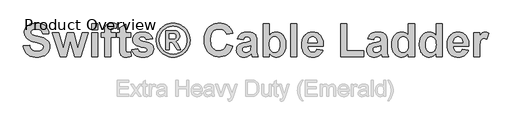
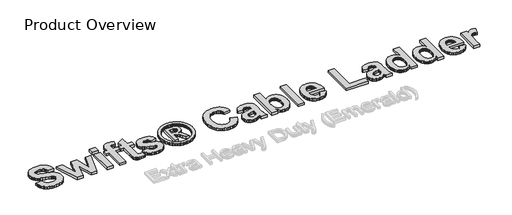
# One storey, part 11 of 11: 1 proxy.
"""IFC4 building model written with IfcOpenShell, lengths in millimetres."""

from ifc_helpers import new_model, si_unit, origin, origin_with_axes, place, context, project, spatial, polyline, outline, extrude, element, save

model = new_model("IFC4")

# Units and contexts
model_context = context("Model", 3, world=origin())
ifc_project = project(units=[si_unit("LENGTHUNIT", "METRE", prefix="MILLI")], contexts=[model_context])

# Site, building, storey
site = spatial("IfcSite", under=ifc_project)
building = spatial("IfcBuilding", under=site)
storey = spatial("IfcBuildingStorey", under=building, Name="Product Overview", Elevation=0.0)

# Proxy
placement = place(None, origin())
element("IfcBuildingElementProxy", 1, Name="2000mm Bold", ObjectType="2000mm Bold", at=placement, inside=storey, context=model_context, shape_type="SweptSolid", body=[
    extrude(outline(polyline([(-12506.384412, 258.8556104), (-12128.2025939, 290.370762), (-12105.3048666, 199.3338301), (-12090.3474802, 158.6626654), (-12073.0510787, 121.2230347), (-12053.415662, 87.0149381), (-12031.4412302, 56.0383756), (-12007.1277833, 28.2933472), (-11980.4753211, 3.7798529), (-11951.4453732, -17.6867665), (-11919.9994689, -36.2911699), (-11886.1376081, -52.0333574), (-11849.8597908, -64.913329), (-11811.1660172, -74.9310846), (-11770.056287, -82.0866244), (-11680.5889575, -87.8110562), (-11586.5667037, -82.7483195), (-11504.916609, -67.5601093), (-11468.7311213, -56.1689516), (-11435.6386734, -42.2464255), (-11405.6392653, -25.7925311), (-11378.7328969, -6.8072683), (-11334.353162, 35.4027222), (-11302.6533514, 81.0289059), (-11291.5584177, 105.1230702), (-11283.6334651, 130.0712828), (-11278.8784935, 155.8735437), (-11277.2935029, 182.5298529), (-11279.924895, 215.9685366), (-11287.8190711, 246.8527695), (-11300.9760314, 275.1825517), (-11319.3957757, 300.9578832), (-11344.4016942, 324.6404116), (-11377.3171772, 346.6917847), (-11418.1422245, 367.1120025), (-11466.8768363, 385.901065), (-11584.8124423, 418.7703832), (-11794.8313817, 470.1056104), (-11947.0520257, 511.1922582), (-12013.9755579, 533.5590906), (-12074.7745636, 557.1415953), (-12129.4490427, 581.9397724), (-12177.9989954, 607.9536218), (-12220.4244215, 635.1831436), (-12256.7253211, 663.6283377), (-12300.4664433, 705.6151985), (-12338.3754158, 749.8333567), (-12370.4522387, 796.2828121), (-12396.696912, 844.963565), (-12417.1094357, 895.8756152), (-12431.6898098, 949.0189627), (-12440.4380342, 1004.3936076), (-12443.354109, 1061.9995498), (-12437.9989954, 1136.3556104), (-12421.9336545, 1208.2495498), (-12395.1580863, 1277.681368), (-12357.6722908, 1344.651065), (-12310.0917984, 1406.4810839), (-12253.0321393, 1460.493868), (-12186.4933136, 1506.6894173), (-12110.4753211, 1545.0677317), (-12025.5629158, 1575.2287165), (-11932.3408514, 1596.7722771), (-11830.8091279, 1609.6984135), (-11720.9677454, 1614.0071256), (-11630.6579087, 1611.3218746), (-11546.1109745, 1603.2661218), (-11467.3269428, 1589.8398671), (-11394.3058136, 1571.0431104), (-11327.0475868, 1546.8758519), (-11265.5522624, 1517.3380915), (-11209.8198405, 1482.4298292), (-11159.8503211, 1442.151065), (-11115.5590688, 1397.3943178), (-11076.861448, 1349.0521067), (-11043.7574589, 1297.1244315), (-11016.2471014, 1241.6112923), (-10994.3303756, 1182.512689), (-10978.0072814, 1119.8286218), (-10967.2778188, 1053.5590906), (-10962.1419878, 983.7040953), (-11340.323806, 983.7040953), (-11357.4201601, 1053.9822676), (-11382.1183136, 1113.6425423), (-11414.4182662, 1162.6849192), (-11433.4189172, 1183.224396), (-11454.3200181, 1201.1093983), (-11503.4855011, 1230.0854873), (-11563.5766469, 1250.7826938), (-11634.5934556, 1263.2010176), (-11716.5359272, 1267.3404589), (-11801.9715333, 1262.9394173), (-11877.5586545, 1249.7362923), (-11943.2972908, 1227.7310839), (-11999.1874423, 1196.9237923), (-12028.0558136, 1172.3641332), (-12048.6760787, 1143.9881862), (-12061.0482378, 1111.7959514), (-12065.1722908, 1075.7874286), (-12061.417556, 1042.3333567), (-12050.1533514, 1011.4029589), (-12031.3796772, 982.9962354), (-12005.0965333, 957.1131862), (-11982.6104419, 941.4133164), (-11953.3150465, 925.5826464), (-11874.2963439, 893.5289059), (-11768.0404253, 860.9519646), (-11634.5472908, 827.8518226), (-11497.0224329, 794.0899854), (-11378.6713439, 759.5279589), (-11279.4940238, 724.165743), (-11199.4904726, 688.0033377), (-11132.8900939, 648.0708093), (-11073.9222908, 601.3982241), (-11022.5870636, 547.985582), (-10978.884412, 487.8328832), (-10943.9838439, 420.5861976), (-10919.0548666, 345.8915953), (-10904.0974802, 263.7490764), (-10899.1116848, 174.1586407), (-10905.0053874, 90.8158377), (-10922.6864954, 10.181368), (-10952.1550086, -67.7447683), (-10993.4109272, -142.9625714), (-11018.2091043, -178.7094937), (-11045.4540143, -212.0866244), (-11075.1456573, -243.0939634), (-11107.2840333, -271.7315108), (-11141.8691422, -297.9992665), (-11178.900984, -321.8972305), (-11218.3795588, -343.4254028), (-11260.3048666, -362.5837835), (-11351.9111639, -394.037382), (-11454.135359, -416.504238), (-11566.9774518, -429.9843517), (-11690.4374423, -434.4777229), (-11781.5205389, -431.7116836), (-11867.1561923, -423.4135657), (-11947.3444026, -409.5833692), (-12022.0851696, -390.2210941), (-12091.3784935, -365.3267404), (-12155.2243742, -334.9003081), (-12213.6228117, -298.9417972), (-12266.573806, -257.4512077), (-12314.2697103, -210.6593635), (-12356.9028779, -158.7970884), (-12394.4733088, -101.8643825), (-12426.9810029, -39.8612456), (-12454.4259603, 27.2123221), (-12476.808181, 99.3563207), (-12494.1276649, 176.5707501), (-12506.384412, 258.8556104)])), origin_with_axes(), (0.0, 0.0, 1.0), 150.0),
    extrude(outline(polyline([(-10281.6116848, -402.9625714), (-10741.5359272, 1046.7343983), (-10367.7859272, 1046.7343983), (-10095.4753211, 96.8480347), (-9840.8919878, 1046.7343983), (-9461.7253211, 1046.7343983), (-9213.0510787, 96.8480347), (-8939.7556242, 1046.7343983), (-8566.9904726, 1046.7343983), (-9025.9298666, -402.9625714), (-9397.2177454, -402.9625714), (-9654.2631999, 529.1965195), (-9904.9071393, -402.9625714), (-10281.6116848, -402.9625714)])), origin_with_axes(), (0.0, 0.0, 1.0), 150.0),
    extrude(outline(polyline([(-8377.8995636, 1235.8253074), (-8377.8995636, 1582.4919741), (-7999.7177454, 1582.4919741), (-7999.7177454, 1235.8253074), (-8377.8995636, 1235.8253074)])), origin_with_axes(), (0.0, 0.0, 1.0), 150.0),
    extrude(outline(polyline([(-8377.8995636, -402.9625714), (-8377.8995636, 1046.7343983), (-7999.7177454, 1046.7343983), (-7999.7177454, -402.9625714), (-8377.8995636, -402.9625714)])), origin_with_axes(), (0.0, 0.0, 1.0), 150.0),
    extrude(outline(polyline([(-7779.1116848, 1046.7343983), (-7590.0207757, 1046.7343983), (-7590.0207757, 1152.6056104), (-7587.6202075, 1235.6098718), (-7580.4185029, 1307.3499286), (-7568.415662, 1367.8257809), (-7551.6116848, 1417.0374286), (-7528.3754158, 1458.6011123), (-7497.0756999, 1496.1330726), (-7457.712537, 1529.6333093), (-7410.2859272, 1559.1018226), (-7355.4114007, 1583.1228926), (-7293.7044878, 1600.2807998), (-7225.1651886, 1610.5755442), (-7149.7935029, 1614.0071256), (-7069.4667984, 1611.0525801), (-6990.0018363, 1602.1889438), (-6911.3986166, 1587.4162165), (-6833.6571393, 1566.7343983), (-6880.9298666, 1309.1965195), (-6970.4279726, 1325.0772014), (-7056.7253211, 1330.370762), (-7095.1805768, 1328.0009703), (-7127.8190711, 1320.8915953), (-7154.6408041, 1309.042637), (-7175.6457757, 1292.4540953), (-7191.4802927, 1269.1254968), (-7202.790662, 1237.056368), (-7209.5768836, 1196.2467089), (-7211.8389575, 1146.6965195), (-7211.8389575, 1046.7343983), (-6928.2025939, 1046.7343983), (-6928.2025939, 763.0980347), (-7211.8389575, 763.0980347), (-7211.8389575, -402.9625714), (-7590.0207757, -402.9625714), (-7590.0207757, 763.0980347), (-7779.1116848, 763.0980347), (-7779.1116848, 1046.7343983)])), origin_with_axes(), (0.0, 0.0, 1.0), 150.0),
    extrude(outline(polyline([(-6014.2631999, 1046.7343983), (-6014.2631999, 763.0980347), (-6297.8995636, 763.0980347), (-6297.8995636, 141.1662165), (-6295.7452075, -8.099882), (-6289.2821393, -78.7012077), (-6275.1864954, -107.2618138), (-6250.134412, -130.4057532), (-6216.2802454, -145.7324577), (-6175.7783514, -150.8413593), (-6141.8010787, -148.5638971), (-6100.9298666, -141.7315108), (-5998.5056242, -114.4019653), (-5982.7480484, -383.2656017), (-6053.4417037, -405.6709047), (-6128.6287302, -421.6746926), (-6208.3091279, -431.2769653), (-6292.4828969, -434.4777229), (-6344.1258893, -432.2618138), (-6393.1836545, -425.6140865), (-6439.6561923, -414.5345411), (-6483.5435029, -399.0231774), (-6523.2913723, -380.0032911), (-6557.3455863, -358.3981774), (-6585.706145, -334.2078365), (-6608.3730484, -307.4322683), (-6626.7004632, -276.8711888), (-6642.042556, -241.3243138), (-6654.3993268, -200.7916433), (-6663.7707757, -155.2731774), (-6673.0037302, -52.4796168), (-6676.0813817, 119.9919741), (-6676.0813817, 763.0980347), (-6865.1722908, 763.0980347), (-6865.1722908, 1046.7343983), (-6676.0813817, 1046.7343983), (-6676.0813817, 1330.370762), (-6297.8995636, 1550.9768226), (-6297.8995636, 1046.7343983), (-6014.2631999, 1046.7343983)])), origin_with_axes(), (0.0, 0.0, 1.0), 150.0),
    extrude(outline(polyline([(-5951.2328969, 6.7343983), (-5573.0510787, 69.7647014), (-5558.1398571, 18.8603453), (-5537.042556, -25.5193896), (-5509.7591753, -63.3745032), (-5476.2897151, -94.7049956), (-5436.1109745, -119.2646547), (-5388.6997529, -136.8072683), (-5334.0560503, -147.3328365), (-5272.1798666, -150.8413593), (-5204.5023098, -147.4867191), (-5145.7499423, -137.4227986), (-5095.9227643, -120.6495979), (-5055.0207757, -97.1671168), (-5033.4772151, -76.8546168), (-5018.0889575, -53.3413593), (-5008.8560029, -26.6273441), (-5005.7783514, 3.2874286), (-5007.4095067, 23.7845877), (-5012.3029726, 42.4351559), (-5020.4587492, 59.2391332), (-5031.8768363, 74.1965195), (-5049.9426507, 87.4611976), (-5076.5643363, 100.1718983), (-5155.4753211, 123.931368), (-5358.5695446, 173.3584514), (-5520.7310029, 220.6927317), (-5641.9596961, 265.9342089), (-5687.2242558, 287.7701464), (-5722.2556242, 309.0828832), (-5761.1494452, 339.8055394), (-5794.8574234, 373.3750233), (-5823.3795588, 409.7913349), (-5846.7158514, 449.0544741), (-5864.8663012, 491.1644409), (-5877.8309083, 536.1212354), (-5885.6096725, 583.9248576), (-5888.2025939, 634.5753074), (-5885.9789906, 680.5477269), (-5879.308181, 724.6581673), (-5868.1901649, 766.9066284), (-5852.6249423, 807.2931104), (-5832.6125134, 845.8176133), (-5808.1528779, 882.480137), (-5779.2460361, 917.2806815), (-5745.8919878, 950.2192468), (-5707.8599092, 980.2263491), (-5664.9189764, 1006.2325044), (-5617.0691895, 1028.2377127), (-5564.3105484, 1046.2419741), (-5506.6430531, 1060.2452885), (-5444.0667037, 1070.2476559), (-5376.5815001, 1076.2490764), (-5304.1874423, 1078.2495498), (-5235.3172956, 1076.6337828), (-5171.0174613, 1071.7864817), (-5111.2879395, 1063.7076464), (-5056.1287302, 1052.3972771), (-5005.5398334, 1037.8553737), (-4959.5212492, 1020.0819362), (-4918.0729774, 999.0769646), (-4881.1950181, 974.8404589), (-4847.9486876, 947.4339722), (-4817.3953022, 916.9190574), (-4789.5348618, 883.2957146), (-4764.3673666, 846.5639438), (-4741.8928164, 806.7237449), (-4722.1112113, 763.775118), (-4705.0225512, 717.7180631), (-4690.6268363, 668.5525801), (-5068.8086545, 605.5222771), (-5080.5652833, 648.6401748), (-5096.6306242, 686.4029589), (-5117.0046772, 718.8106294), (-5141.6874423, 745.8631862), (-5171.3560029, 767.1913112), (-5206.6874423, 782.4256862), (-5247.6817605, 791.5663112), (-5294.3389575, 794.6131862), (-5352.6604537, 792.0279589), (-5402.0567605, 784.2722771), (-5442.5278779, 771.3461407), (-5474.073806, 753.2495498), (-5489.8006052, 737.368868), (-5501.0340333, 719.2722771), (-5507.7740901, 698.9597771), (-5510.0207757, 676.431368), (-5507.7740901, 657.196046), (-5501.0340333, 639.3764438), (-5489.8006052, 622.9725612), (-5474.073806, 607.9843983), (-5435.064573, 587.3333567), (-5366.2944499, 562.8044741), (-5267.7634367, 534.3977506), (-5139.4715333, 502.1131862), (-5007.1171298, 465.8892279), (-4896.3986166, 425.6643226), (-4849.1528188, 404.0515148), (-4807.3159935, 381.4384703), (-4770.8881407, 357.825189), (-4739.8692605, 333.211671), (-4713.5553401, 306.4745735), (-4690.7499423, 277.22919), (-4671.4530673, 245.4755205), (-4655.6647151, 211.213565), (-4643.3848855, 174.4433235), (-4634.6135787, 135.164796), (-4629.3507946, 93.3779826), (-4627.5965333, 49.0828832), (-4630.1394428, 0.3444244), (-4637.7681715, -46.6474672), (-4650.4827193, -91.8927915), (-4668.2830863, -135.3915486), (-4691.1692724, -177.1437385), (-4719.1412776, -217.1493611), (-4752.1991019, -255.4084165), (-4790.3427454, -291.9209047), (-4833.4721843, -325.332659), (-4881.487395, -354.2895127), (-4934.3883775, -378.7914658), (-4992.1751317, -398.8385183), (-5054.8476578, -414.4306703), (-5122.4059556, -425.5679218), (-5194.8500252, -432.2502726), (-5272.1798666, -434.4777229), (-5342.6773216, -432.6234379), (-5409.3969594, -427.0605827), (-5472.3387799, -417.7891576), (-5531.5027833, -404.8091623), (-5586.8889693, -388.1205969), (-5638.4973382, -367.7234615), (-5686.3278898, -343.617756), (-5730.3806242, -315.8034805), (-5770.7247885, -284.8038356), (-5807.4296298, -251.1420221), (-5840.4951483, -214.8180401), (-5869.9213439, -175.8318896), (-5895.7082165, -134.1835704), (-5917.8557662, -89.8730827), (-5936.363993, -42.9004265), (-5951.2328969, 6.7343983)])), origin_with_axes(), (0.0, 0.0, 1.0), 150.0),
    extrude(outline(polyline([(-3902.7480484, 6.7343983), (-3902.7480484, 1172.7950044), (-3689.5283514, 1172.7950044), (-3354.1874423, 1169.8404589), (-3304.1909935, 1163.2388964), (-3260.072859, 1153.2826938), (-3221.8330389, 1139.971851), (-3189.4715333, 1123.306368), (-3161.2648571, 1102.5476085), (-3135.4895257, 1076.9569362), (-3112.1455389, 1046.534351), (-3091.2328969, 1011.2798529), (-3073.9980484, 972.5937733), (-3061.6874423, 931.8764438), (-3054.3010787, 889.1278642), (-3051.8389575, 844.3480347), (-3056.40927, 783.5951938), (-3070.1202075, 727.3972771), (-3092.97177, 675.7542847), (-3124.9639575, 628.6662165), (-3165.2350276, 588.1027695), (-3212.9232378, 556.0336407), (-3268.0285882, 532.4588301), (-3330.5510787, 517.3783377), (-3286.9099802, 496.3272014), (-3254.4715333, 473.5525801), (-3222.6486166, 439.3290953), (-3180.854109, 383.931368), (-3100.5889575, 242.1131862), (-2988.8086545, 6.7343983), (-3209.4147151, 6.7343983), (-3318.2404726, 193.3631862), (-3370.0219594, 278.9218983), (-3415.0633893, 346.9995498), (-3453.3647624, 397.5961407), (-3484.9260787, 430.711671), (-3515.0101223, 452.039796), (-3548.8796772, 467.274171), (-3586.5347435, 476.414796), (-3627.9753211, 479.461671), (-3682.1419878, 479.461671), (-3682.1419878, 6.7343983), (-3902.7480484, 6.7343983)]), holes=[polyline([(-3682.1419878, 668.5525801), (-3595.9677454, 668.5525801), (-3447.1325181, 672.430421), (-3398.8441658, 677.2777222), (-3367.9753211, 684.0639438), (-3346.9857378, 693.2968983), (-3328.3351696, 705.4843983), (-3312.0236166, 720.6264438), (-3298.0510787, 738.7230347), (-3286.8484272, 758.9585934), (-3278.8465333, 780.5175423), (-3274.0453969, 803.3998813), (-3272.4450181, 827.6056104), (-3274.0146204, 851.0727032), (-3278.7234272, 873.2164059), (-3286.5714386, 894.0367184), (-3297.5586545, 913.5336407), (-3311.4388628, 931.0300896), (-3327.9658514, 945.8489817), (-3347.1396204, 957.9903169), (-3368.9601696, 967.4540953), (-3400.5060976, 974.5634703), (-3448.8560029, 979.6415953), (-3595.9677454, 983.7040953), (-3682.1419878, 983.7040953), (-3682.1419878, 668.5525801)])]), origin_with_axes(), (0.0, 0.0, 1.0), 150.0),
    extrude(outline(polyline([(-3445.7783514, 1614.0071256), (-3380.2513036, 1611.9489461), (-3315.393645, 1605.7744078), (-3251.2053756, 1595.4835105), (-3187.6864954, 1581.0762544), (-3124.8370044, 1562.5526393), (-3062.6569026, 1539.9126654), (-3001.14619, 1513.1563325), (-2940.3048666, 1482.2836407), (-2881.4178519, 1447.5677317), (-2825.7700654, 1409.2817468), (-2773.3615072, 1367.4256862), (-2724.1921772, 1321.9995498), (-2678.2620754, 1273.0033377), (-2635.5712018, 1220.4370498), (-2596.1195565, 1164.3006862), (-2559.9071393, 1104.5942468), (-2527.4763865, 1042.7449925), (-2499.369734, 980.1801843), (-2475.5871819, 916.8998221), (-2456.1287302, 852.9039059), (-2440.9943789, 788.1924357), (-2430.1841279, 722.7654116), (-2423.6979774, 656.6228335), (-2421.5359272, 589.7647014), (-2423.6556597, 523.3028169), (-2430.0148571, 457.6103453), (-2440.6135195, 392.6872866), (-2455.4516469, 328.5336407), (-2474.5292392, 265.1494078), (-2497.8462965, 202.5345877), (-2525.4028188, 140.6891805), (-2557.198806, 79.6131862), (-2592.7879987, 20.5953713), (-2631.7241374, -35.0754975), (-2674.0072222, -87.3994203), (-2719.6372529, -136.3763971), (-2768.6142297, -182.0064279), (-2820.9381526, -224.2895127), (-2876.6090214, -263.2256514), (-2935.6268363, -298.8148441), (-2996.7028306, -330.6108313), (-3058.5482378, -358.1673536), (-3121.1630579, -381.4844109), (-3184.5472908, -400.5620032), (-3248.7009367, -415.4001306), (-3313.6239954, -425.998793), (-3379.316467, -432.3579904), (-3445.7783514, -434.4777229), (-3512.2402359, -432.3579904), (-3577.9327075, -425.998793), (-3642.8557662, -415.4001306), (-3707.009412, -400.5620032), (-3770.393645, -381.4844109), (-3833.0084651, -358.1673536), (-3894.8538723, -330.6108313), (-3955.9298666, -298.8148441), (-4014.9476815, -263.2256514), (-4070.6185503, -224.2895127), (-4122.9424731, -182.0064279), (-4171.9194499, -136.3763971), (-4217.5494807, -87.3994203), (-4259.8325654, -35.0754975), (-4298.7687042, 20.5953713), (-4334.3578969, 79.6131862), (-4366.1538841, 140.6891805), (-4393.7104064, 202.5345877), (-4417.0274636, 265.1494078), (-4436.105056, 328.5336407), (-4450.9431833, 392.6872866), (-4461.5418458, 457.6103453), (-4467.9010432, 523.3028169), (-4470.0207757, 589.7647014), (-4467.8587255, 656.6228335), (-4461.3725749, 722.7654116), (-4450.562324, 788.1924357), (-4435.4279726, 852.9039059), (-4415.9695209, 916.8998221), (-4392.1869689, 980.1801843), (-4364.0803164, 1042.7449925), (-4331.6495636, 1104.5942468), (-4295.4371464, 1164.3006862), (-4255.9855011, 1220.4370498), (-4213.2946275, 1273.0033377), (-4167.3645257, 1321.9995498), (-4118.1951957, 1367.4256862), (-4065.7866374, 1409.2817468), (-4010.138851, 1447.5677317), (-3951.2518363, 1482.2836407), (-3890.4105129, 1513.1563325), (-3828.8998003, 1539.9126654), (-3766.7196985, 1562.5526393), (-3703.8702075, 1581.0762544), (-3640.3513273, 1595.4835105), (-3576.1630579, 1605.7744078), (-3511.3053993, 1611.9489461), (-3445.7783514, 1614.0071256)]), holes=[polyline([(-3446.2707757, 1424.9162165), (-3499.6641824, 1423.2427435), (-3552.4959177, 1418.2223245), (-3604.7659816, 1409.8549594), (-3656.4743742, 1398.1406483), (-3707.6210953, 1383.0793912), (-3758.206145, 1364.6711881), (-3808.2295233, 1342.9160389), (-3857.6912302, 1317.8139438), (-3905.5679466, 1289.5803382), (-3950.8363533, 1258.4306578), (-3993.4964504, 1224.3649026), (-4033.5482378, 1187.3830726), (-4070.9917155, 1147.4851677), (-4105.8268836, 1104.6711881), (-4138.0537421, 1058.9411336), (-4167.6722908, 1010.2950044), (-4194.2170351, 959.8907667), (-4217.2224802, 908.886387), (-4236.6886261, 857.2818652), (-4252.6154726, 805.0772014), (-4265.00302, 752.2723955), (-4273.8512681, 698.8674476), (-4279.160217, 644.8623576), (-4280.9298666, 590.2571256), (-4279.2025347, 536.0404471), (-4274.0205389, 482.4623813), (-4265.3838794, 429.5229282), (-4253.292556, 377.2220877), (-4237.7465688, 325.55986), (-4218.7459177, 274.5362449), (-4196.2906029, 224.1512425), (-4170.3806242, 174.4048529), (-4141.3737586, 126.3319362), (-4109.6277833, 80.9673529), (-4075.142698, 38.3111029), (-4037.9185029, -1.6368138), (-3997.955198, -38.8763971), (-3955.2527833, -73.4076471), (-3909.8112586, -105.2305638), (-3861.6306242, -134.3451471), (-3811.7842108, -160.3705378), (-3761.3453495, -182.9258763), (-3710.3140404, -202.0111628), (-3658.6902833, -217.6263971), (-3606.4740782, -229.7715794), (-3553.6654253, -238.4467096), (-3500.2643244, -243.6517878), (-3446.2707757, -245.3868138), (-3392.0579442, -243.6517878), (-3338.4914196, -238.4467096), (-3285.5712018, -229.7715794), (-3233.2972908, -217.6263971), (-3181.6696867, -202.0111628), (-3130.6883893, -182.9258763), (-3080.3533988, -160.3705378), (-3030.6647151, -134.3451471), (-2982.6456573, -105.2305638), (-2937.3195446, -73.4076471), (-2894.686377, -38.8763971), (-2854.7461545, -1.6368138), (-2817.498877, 38.3111029), (-2782.9445446, 80.9673529), (-2751.0831573, 126.3319362), (-2721.9147151, 174.4048529), (-2695.8316185, 224.1512425), (-2673.2262681, 274.5362449), (-2654.0986639, 325.55986), (-2638.448806, 377.2220877), (-2626.2766942, 429.5229282), (-2617.5823287, 482.4623813), (-2612.3657094, 536.0404471), (-2610.6268363, 590.2571256), (-2612.3964859, 644.8623576), (-2617.7054348, 698.8674476), (-2626.5536829, 752.2723955), (-2638.9412302, 805.0772014), (-2654.8680768, 857.2818652), (-2674.3342226, 908.886387), (-2697.3396677, 959.8907667), (-2723.884412, 1010.2950044), (-2753.514502, 1058.9411336), (-2785.775984, 1104.6711881), (-2820.6688581, 1147.4851677), (-2858.1931242, 1187.3830726), (-2898.3487823, 1224.3649026), (-2941.1358325, 1258.4306578), (-2986.5542747, 1289.5803382), (-3034.604109, 1317.8139438), (-3084.2312397, 1342.9160389), (-3134.3815711, 1364.6711881), (-3185.0551033, 1383.0793912), (-3236.2518363, 1398.1406483), (-3287.97177, 1409.8549594), (-3340.2149045, 1418.2223245), (-3392.9812397, 1423.2427435), (-3446.2707757, 1424.9162165)])]), origin_with_axes(), (0.0, 0.0, 1.0), 150.0),
    extrude(outline(polyline([(-215.4753211, 353.401065), (162.7064971, 227.3404589), (138.446909, 150.0106175), (110.4787508, 77.8127601), (78.8020226, 10.7468865), (43.4167243, -51.1870032), (4.322856, -107.988909), (-38.4795825, -159.6588308), (-84.990591, -206.1967688), (-135.2101696, -247.6027229), (-189.0382946, -284.0151874), (-246.3749423, -315.5726566), (-307.2201128, -342.2751306), (-371.573806, -364.1226093), (-439.4360219, -381.1150927), (-510.8067605, -393.2525808), (-585.6860219, -400.5350737), (-664.073806, -402.9625714), (-760.9659698, -398.815436), (-853.4417037, -386.3740297), (-941.5010077, -365.6383526), (-1025.1438817, -336.6084047), (-1104.3703259, -299.284186), (-1179.1803401, -253.6656964), (-1249.5739243, -199.752936), (-1315.5510787, -137.5459047), (-1375.3344594, -68.144863), (-1427.1467226, 7.3499286), (-1470.9878685, 88.9384703), (-1506.8578969, 176.620762), (-1534.7568079, 270.3968036), (-1554.6846014, 370.2665953), (-1566.6412776, 476.230137), (-1570.6268363, 588.2874286), (-1566.606654, 706.6385176), (-1554.5461071, 818.1879968), (-1534.4451957, 922.9358661), (-1506.3039196, 1020.8821256), (-1470.122279, 1112.0267752), (-1425.9002738, 1196.369815), (-1373.637904, 1273.9112449), (-1313.3351696, 1344.651065), (-1246.4770375, 1407.7813917), (-1174.5484745, 1462.4943415), (-1097.5494807, 1508.7899144), (-1015.480056, 1546.6681104), (-928.3402004, 1576.1289296), (-836.1299139, 1597.1723718), (-738.8491966, 1609.7984371), (-636.4980484, 1614.0071256), (-547.0614954, 1610.5370735), (-461.9336545, 1600.1269173), (-381.1145257, 1582.7766568), (-304.604109, 1558.4862923), (-232.4024045, 1527.2558235), (-164.509412, 1489.0852506), (-100.9251317, 1443.9745735), (-41.6495636, 1391.9237923), (-8.6186687, 1357.3848481), (22.2732584, 1319.26044), (51.0262177, 1277.5505678), (77.6402092, 1232.2552317), (102.1152328, 1183.3744315), (124.4512887, 1130.9081673), (162.7064971, 1015.2192468), (-215.4753211, 952.1889438), (-239.3117321, 1021.4514911), (-255.0731549, 1053.1859253), (-273.3967226, 1082.9891332), (-294.2824352, 1110.8611147), (-317.7302927, 1136.8018699), (-372.3124423, 1182.8897014), (-435.2350276, 1219.8369078), (-504.5899045, 1246.2277695), (-580.377073, 1262.0622866), (-662.5965333, 1267.3404589), (-720.175546, 1264.9437378), (-774.9769783, 1257.7535745), (-827.0008301, 1245.7699689), (-876.2471014, 1228.992921), (-922.7157922, 1207.422431), (-966.4069026, 1181.0584987), (-1007.3204324, 1149.9011242), (-1045.4563817, 1113.9503074), (-1079.9068434, 1072.6366829), (-1109.7639101, 1025.3908851), (-1135.027582, 972.2129139), (-1155.697859, 913.1027695), (-1171.7747411, 848.0604518), (-1183.2582283, 777.0859608), (-1190.1483207, 700.1792965), (-1192.4450181, 617.3404589), (-1190.2175678, 529.5196729), (-1183.535217, 448.2542847), (-1172.3979655, 373.5442942), (-1156.8058136, 305.3897014), (-1136.758761, 243.7905063), (-1112.2568079, 188.7467089), (-1083.2999542, 140.2583093), (-1049.8881999, 98.3253074), (-1012.9063699, 62.0859608), (-973.2392889, 30.6785271), (-930.886957, 4.1030063), (-885.8493742, -17.6406017), (-838.1265404, -34.5522968), (-787.7184556, -46.632079), (-734.6251199, -53.8799483), (-678.8465333, -56.2959047), (-637.5944618, -54.7532319), (-597.7965806, -50.1252134), (-559.4528898, -42.4118493), (-522.5633893, -31.6131396), (-487.1280792, -17.7290842), (-453.1469594, -0.7596831), (-420.6200299, 19.2950636), (-389.5472908, 42.4351559), (-360.2749779, 68.8914177), (-333.1493268, 98.8946729), (-308.1703377, 132.4449215), (-285.3380105, 169.5421635), (-264.6523453, 210.1863988), (-246.113342, 254.3776275), (-215.4753211, 353.401065)])), origin_with_axes(), (0.0, 0.0, 1.0), 150.0),
    extrude(outline(polyline([(793.0095274, 605.5222771), (446.3428607, 668.5525801), (461.3810354, 719.0568415), (478.919802, 766.1756862), (498.9591604, 809.9091142), (521.4991107, 850.2571256), (546.5396528, 887.2197203), (574.0807868, 920.7968983), (604.1225127, 950.9886597), (636.6648304, 977.7950044), (672.5002352, 1001.3390385), (712.4212224, 1021.743868), (756.427792, 1039.009493), (804.519944, 1053.1359135), (856.6976784, 1064.1231294), (912.9609952, 1071.9711407), (973.3098943, 1076.6799476), (1037.7443758, 1078.2495498), (1150.9096221, 1074.4486502), (1248.6250577, 1063.0459514), (1330.8906827, 1044.0414532), (1366.2298162, 1031.6885295), (1397.7064971, 1017.4351559), (1452.427141, 984.9967089), (1498.4072546, 948.495762), (1535.646838, 907.932315), (1564.145891, 863.306368), (1585.2585804, 806.8776275), (1600.3390728, 730.9057998), (1609.3873683, 635.3908851), (1612.4034667, 520.3328832), (1612.4034667, 73.211671), (1617.3892622, -92.7352986), (1623.6215065, -156.8735562), (1632.3466486, -208.4549956), (1644.4879838, -254.5889918), (1660.9688077, -302.3849199), (1681.7891202, -351.8427797), (1706.9489213, -402.9625714), (1328.7671031, -402.9625714), (1293.3125577, -282.8110562), (1280.0171031, -235.0459047), (1231.9134099, -281.6877134), (1182.1477849, -322.1434426), (1130.7202281, -356.4130922), (1077.6307395, -384.4966623), (1022.817766, -406.3633763), (966.2197546, -421.9824577), (907.8367054, -431.3539066), (847.6686183, -434.4777229), (795.1754246, -432.5811201), (745.5367527, -426.8913119), (698.7526026, -417.4082982), (654.8229743, -404.132079), (613.7478678, -387.0626542), (575.527283, -366.200024), (540.1612201, -341.5441883), (507.6496789, -313.0951471), (478.5081661, -281.7531135), (453.2521883, -248.4183005), (431.8817456, -213.0907082), (414.396838, -175.7703365), (400.7974653, -136.4571855), (391.0836277, -95.1512551), (385.2553252, -51.8525453), (383.3125577, -6.5610562), (386.7749156, 53.0838301), (397.1619895, 109.4048529), (414.4737792, 162.402012), (438.7102849, 212.0753074), (469.1944232, 257.2860082), (505.2491107, 296.8953832), (546.8743474, 330.9034324), (594.0701334, 359.3101559), (649.5601902, 384.0852506), (716.0682395, 407.1984135), (793.5942811, 428.6496445), (882.1383152, 448.4389438), (999.4276145, 473.1524854), (1097.2046031, 497.0658377), (1175.4692811, 520.1790006), (1234.2216486, 542.4919741), (1234.2216486, 582.3783377), (1231.2824914, 635.6217089), (1222.4650198, 680.6169741), (1207.7692338, 717.3641332), (1187.1951334, 745.8631862), (1158.496033, 767.1913112), (1119.4252471, 782.4256862), (1069.9827755, 791.5663112), (1010.1686183, 794.6131862), (968.5279933, 791.9971824), (931.7500577, 784.149171), (899.8348114, 771.0691521), (872.7822546, 752.7571256), (849.3305501, 727.8589248), (828.2178607, 695.0203832), (809.4441864, 654.2415006), (793.0095274, 605.5222771)]), holes=[polyline([(1234.2216486, 258.8556104), (1147.1856637, 234.6652695), (1021.0019516, 206.4124286), (900.3580122, 176.3129968), (858.8712698, 161.4017752), (829.9413455, 146.5828832), (799.9957963, 121.3153642), (778.6061183, 92.7855347), (765.7723114, 60.9933945), (761.4943758, 25.9389438), (764.9259573, -8.7923536), (775.2207016, -41.0923062), (792.3786088, -70.9609142), (816.3996789, -98.3981774), (845.7143096, -121.3420695), (878.7528986, -137.7305638), (915.5154459, -147.5636604), (956.0019516, -150.8413593), (1002.9361372, -147.0250714), (1048.7008152, -135.5762077), (1093.2959857, -116.4947683), (1136.7216486, -89.7807532), (1165.959338, -65.3442002), (1189.6572546, -38.3224199), (1207.8153986, -8.7154123), (1220.4337698, 23.4768226), (1226.4659667, 50.3447203), (1230.7746789, 87.1226559), (1234.2216486, 190.4086407), (1234.2216486, 258.8556104)])]), origin_with_axes(), (0.0, 0.0, 1.0), 150.0),
    extrude(outline(polyline([(1990.5852849, -402.9625714), (1990.5852849, 1582.4919741), (2368.7671031, 1582.4919741), (2368.7671031, 879.8025801), (2413.1006732, 926.3135887), (2459.4347167, 966.6231294), (2507.7692338, 1000.7312023), (2558.1042243, 1028.6378074), (2610.4396883, 1050.3429447), (2664.7756258, 1065.8466142), (2721.1120368, 1075.1488159), (2779.4489213, 1078.2495498), (2842.8023777, 1075.2565337), (2903.3551713, 1066.2774854), (2961.107302, 1051.3124049), (3016.0587698, 1030.3612923), (3068.2095747, 1003.4241474), (3117.5597167, 970.5009703), (3164.1091959, 931.591761), (3207.8580122, 886.6965195), (3247.5597167, 836.1999523), (3281.9678607, 780.4867657), (3311.082444, 719.5569599), (3334.9034667, 653.4105347), (3353.4309289, 582.0474902), (3366.6648304, 505.4678264), (3374.6051713, 423.6715432), (3377.2519516, 336.6586407), (3374.6205596, 246.7373576), (3366.7263834, 162.1250233), (3353.5694232, 82.8216379), (3335.1496789, 8.8272014), (3311.4671505, -59.8582863), (3282.521838, -123.2348252), (3248.3137414, -181.3024151), (3208.8428607, -234.0610562), (3165.6172452, -281.0337125), (3120.144944, -321.7433479), (3072.4259573, -356.1899625), (3022.4602849, -384.3735562), (2970.247927, -406.2941291), (2915.7888834, -421.9516812), (2859.0831542, -431.3462125), (2800.1307395, -434.4777229), (2741.2398777, -430.6922115), (2682.7491107, -419.3356774), (2624.6584383, -400.4081206), (2566.9678607, -373.9095411), (2511.4624156, -339.9630449), (2459.927141, -298.691738), (2412.3620368, -250.0956206), (2368.7671031, -194.1746926), (2368.7671031, -402.9625714), (1990.5852849, -402.9625714)]), holes=[polyline([(2368.7671031, 349.461671), (2373.1373683, 241.0667847), (2386.2481637, 147.8139438), (2408.0994895, 69.7031483), (2422.3028512, 36.3260176), (2438.6913455, 6.7343983), (2464.0819705, -30.1974199), (2491.5038455, -62.2049956), (2520.9569705, -89.288329), (2552.4413455, -111.4474199), (2585.9569705, -128.6822683), (2621.5038455, -140.9928744), (2659.0819705, -148.379238), (2698.6913455, -150.8413593), (2729.2639663, -149.094792), (2758.6901618, -143.8550903), (2786.9699322, -135.1222541), (2814.1032774, -122.8962835), (2840.0901973, -107.1771784), (2864.9306921, -87.9649388), (2888.6247617, -65.2595647), (2911.1724061, -39.0610562), (2931.773436, -9.115507), (2949.6276618, 24.8309892), (2964.7350837, 62.7784324), (2977.0957016, 104.7268226), (2986.7095155, 150.6761597), (2993.5765255, 200.6264438), (2999.0701334, 312.5298529), (2993.5457489, 431.6195782), (2986.6402684, 484.4590077), (2976.9725955, 532.8281483), (2964.5427305, 576.7270001), (2949.3506732, 616.1555631), (2931.3964237, 651.1138372), (2910.6799819, 681.6018226), (2887.80149, 708.0888609), (2863.3610899, 731.0442942), (2837.3587816, 750.4681223), (2809.7945652, 766.3603453), (2780.6684407, 778.7209632), (2749.980408, 787.549976), (2717.7304672, 792.8473836), (2683.9186183, 794.6131862), (2650.7761585, 792.8897014), (2619.0571126, 787.7192468), (2588.7614805, 779.1018226), (2559.8892622, 767.0374286), (2532.4404578, 751.526065), (2506.4150671, 732.5677317), (2481.8130903, 710.1624286), (2458.6345274, 684.3101559), (2437.5718498, 654.9493604), (2419.3175292, 622.0184892), (2403.8715657, 585.5175423), (2391.2339592, 545.4465195), (2381.4047096, 501.805421), (2374.3838171, 454.5942468), (2368.7671031, 349.461671)])]), origin_with_axes(), (0.0, 0.0, 1.0), 150.0),
    extrude(outline(polyline([(3660.8883152, -402.9625714), (3660.8883152, 1582.4919741), (4039.0701334, 1582.4919741), (4039.0701334, -402.9625714), (3660.8883152, -402.9625714)])), origin_with_axes(), (0.0, 0.0, 1.0), 150.0),
    extrude(outline(polyline([(5236.645891, 38.2495498), (5614.8277092, -24.7807532), (5595.6847167, -73.3884118), (5573.9564971, -119.0030543), (5549.6430501, -161.6246808), (5522.7443758, -201.2532911), (5493.2604743, -237.8888853), (5461.1913455, -271.5314634), (5426.5369895, -302.1810254), (5389.2974061, -329.8375714), (5349.557231, -354.3626069), (5307.4010993, -375.6176377), (5262.8290113, -393.6026637), (5215.8409667, -408.317685), (5166.4369658, -419.7627016), (5114.6170084, -427.9377134), (5060.3810946, -432.8427205), (5003.7292243, -434.4777229), (4915.1159431, -430.6229644), (4832.4579175, -419.0586888), (4755.7551476, -399.7848962), (4685.0076334, -372.8015865), (4620.2153749, -338.1087598), (4561.3783721, -295.7064161), (4508.4966249, -245.5945553), (4461.5701334, -187.7731774), (4429.0239686, -136.784186), (4400.8172925, -82.5482721), (4376.950105, -25.065436), (4357.4224061, 35.6643226), (4342.2341959, 99.6410034), (4331.3854743, 166.8646067), (4324.8762414, 237.3351322), (4322.7064971, 311.0525801), (4325.5841012, 398.4886597), (4334.2169137, 481.0620498), (4348.6049346, 558.7727506), (4368.7481637, 631.620762), (4394.6466012, 699.6060839), (4426.3002471, 762.7287165), (4463.7091012, 820.9886597), (4506.8731637, 874.3859135), (4554.4382679, 922.1664532), (4605.0502471, 963.5762544), (4658.7091012, 998.6153169), (4715.4148304, 1027.2836407), (4775.1674346, 1049.581226), (4837.9669137, 1065.5080726), (4903.8132679, 1075.0641805), (4972.7064971, 1078.2495498), (5049.6554791, 1074.9795451), (5122.4342433, 1065.1695309), (5191.0427897, 1048.8195072), (5255.4811183, 1025.9294741), (5315.7492291, 996.4994315), (5371.8471221, 960.5293794), (5423.7747972, 918.0193178), (5471.5322546, 868.9692468), (5514.2269753, 813.1637307), (5550.9664402, 750.3873339), (5581.7506495, 680.6400565), (5606.5796031, 603.9218983), (5625.453301, 520.2328595), (5638.3717433, 429.57294), (5645.3349298, 331.9421398), (5646.3428607, 227.3404589), (4700.8883152, 227.3404589), (4707.9361372, 142.7050423), (4725.1402092, 68.0412165), (4737.5508389, 34.4486502), (4752.5005311, 3.3489817), (4769.9892859, -25.2577892), (4790.0171031, -51.3716623), (4835.2278039, -94.8896547), (4859.7951571, -111.9860089), (4885.6705122, -125.973935), (4912.8538692, -136.8534331), (4941.3452281, -144.6245032), (4971.1445889, -149.2871452), (5002.2519516, -150.8413593), (5043.6463645, -148.0406964), (5081.6553607, -139.6387077), (5116.2789402, -125.6353933), (5147.5171031, -106.0307532), (5175.2467433, -80.209257), (5199.3447546, -47.5553744), (5219.8111372, -8.0691055), (5236.645891, 38.2495498)]), holes=[polyline([(5268.1610425, 447.9465195), (5261.4209857, 527.7961881), (5245.1402092, 597.4588301), (5233.422051, 628.4700162), (5219.318713, 656.9344457), (5202.830195, 682.8521185), (5183.9564971, 706.2230347), (5141.6695652, 744.893726), (5095.0739213, 772.5156483), (5044.1695652, 789.0888017), (4988.9564971, 794.6131862), (4930.2964592, 788.7964248), (4902.9515255, 781.5254731), (4876.9299819, 771.3461407), (4828.8570652, 742.2623339), (4786.0777092, 701.5450044), (4767.3963645, 677.1161455), (4751.238694, 650.6098718), (4726.4943758, 591.3650801), (4711.8447546, 523.8106294), (4707.2898304, 447.9465195), (5268.1610425, 447.9465195)])]), origin_with_axes(), (0.0, 0.0, 1.0), 150.0),
    extrude(outline(polyline([(6686.3428607, -402.9625714), (6686.3428607, 1582.4919741), (7064.5246789, 1582.4919741), (7064.5246789, -56.2959047), (8073.0095274, -56.2959047), (8073.0095274, -402.9625714), (6686.3428607, -402.9625714)])), origin_with_axes(), (0.0, 0.0, 1.0), 150.0),
    extrude(outline(polyline([(8671.7974061, 605.5222771), (8325.1307395, 668.5525801), (8340.1689142, 719.0568415), (8357.7076808, 766.1756862), (8377.7470392, 809.9091142), (8400.2869895, 850.2571256), (8425.3275316, 887.2197203), (8452.8686656, 920.7968983), (8482.9103915, 950.9886597), (8515.4527092, 977.7950044), (8551.288114, 1001.3390385), (8591.2091012, 1021.743868), (8635.2156708, 1039.009493), (8683.3078228, 1053.1359135), (8735.4855572, 1064.1231294), (8791.7488739, 1071.9711407), (8852.0977731, 1076.6799476), (8916.5322546, 1078.2495498), (9029.6975008, 1074.4486502), (9127.4129364, 1063.0459514), (9209.6785614, 1044.0414532), (9245.017695, 1031.6885295), (9276.4943758, 1017.4351559), (9331.2150198, 984.9967089), (9377.1951334, 948.495762), (9414.4347167, 907.932315), (9442.9337698, 863.306368), (9464.0464592, 806.8776275), (9479.1269516, 730.9057998), (9488.1752471, 635.3908851), (9491.1913455, 520.3328832), (9491.1913455, 73.211671), (9496.177141, -92.7352986), (9502.4093853, -156.8735562), (9511.1345274, -208.4549956), (9523.2758626, -254.5889918), (9539.7566864, -302.3849199), (9560.5769989, -351.8427797), (9585.7368001, -402.9625714), (9207.5549819, -402.9625714), (9172.1004364, -282.8110562), (9158.8049819, -235.0459047), (9110.7012887, -281.6877134), (9060.9356637, -322.1434426), (9009.5081069, -356.4130922), (8956.4186183, -384.4966623), (8901.6056448, -406.3633763), (8845.0076334, -421.9824577), (8786.6245842, -431.3539066), (8726.4564971, -434.4777229), (8673.9633034, -432.5811201), (8624.3246315, -426.8913119), (8577.5404814, -417.4082982), (8533.6108531, -404.132079), (8492.5357466, -387.0626542), (8454.3151618, -366.200024), (8418.9490989, -341.5441883), (8386.4375577, -313.0951471), (8357.2960449, -281.7531135), (8332.0400671, -248.4183005), (8310.6696244, -213.0907082), (8293.1847167, -175.7703365), (8279.5853441, -136.4571855), (8269.8715065, -95.1512551), (8264.043204, -51.8525453), (8262.1004364, -6.5610562), (8265.5627944, 53.0838301), (8275.9498683, 109.4048529), (8293.261658, 162.402012), (8317.4981637, 212.0753074), (8347.982302, 257.2860082), (8384.0369895, 296.8953832), (8425.6622262, 330.9034324), (8472.8580122, 359.3101559), (8528.348069, 384.0852506), (8594.8561183, 407.1984135), (8672.3821599, 428.6496445), (8760.926194, 448.4389438), (8878.2154933, 473.1524854), (8975.9924819, 497.0658377), (9054.2571599, 520.1790006), (9113.0095274, 542.4919741), (9113.0095274, 582.3783377), (9110.0703702, 635.6217089), (9101.2528986, 680.6169741), (9086.5571126, 717.3641332), (9065.9830122, 745.8631862), (9037.2839118, 767.1913112), (8998.2131258, 782.4256862), (8948.7706542, 791.5663112), (8888.9564971, 794.6131862), (8847.3158721, 791.9971824), (8810.5379364, 784.149171), (8778.6226902, 771.0691521), (8751.5701334, 752.7571256), (8728.1184289, 727.8589248), (8707.0057395, 695.0203832), (8688.2320652, 654.2415006), (8671.7974061, 605.5222771)]), holes=[polyline([(9113.0095274, 258.8556104), (9025.9735425, 234.6652695), (8899.7898304, 206.4124286), (8779.145891, 176.3129968), (8737.6591486, 161.4017752), (8708.7292243, 146.5828832), (8678.7836751, 121.3153642), (8657.3939971, 92.7855347), (8644.5601902, 60.9933945), (8640.2822546, 25.9389438), (8643.7138361, -8.7923536), (8654.0085804, -41.0923062), (8671.1664876, -70.9609142), (8695.1875577, -98.3981774), (8724.5021883, -121.3420695), (8757.5407774, -137.7305638), (8794.3033247, -147.5636604), (8834.7898304, -150.8413593), (8881.724016, -147.0250714), (8927.488694, -135.5762077), (8972.0838645, -116.4947683), (9015.5095274, -89.7807532), (9044.7472167, -65.3442002), (9068.4451334, -38.3224199), (9086.6032774, -8.7154123), (9099.2216486, 23.4768226), (9105.2538455, 50.3447203), (9109.5625577, 87.1226559), (9113.0095274, 190.4086407), (9113.0095274, 258.8556104)])]), origin_with_axes(), (0.0, 0.0, 1.0), 150.0),
    extrude(outline(polyline([(11161.4943758, -402.9625714), (10783.3125577, -402.9625714), (10783.3125577, -194.1746926), (10739.0713171, -251.0958574), (10691.0445652, -300.2305638), (10639.232302, -341.5788119), (10583.6345274, -375.1406017), (10526.0362792, -401.1005922), (10468.2225955, -419.6434426), (10410.1934762, -430.7691528), (10351.9489213, -434.4777229), (10293.5543309, -431.3385183), (10237.2910141, -421.9209047), (10183.158971, -406.224882), (10131.1582016, -384.2504502), (10081.2887059, -355.9976093), (10033.5504838, -321.4663593), (9987.9435354, -280.6567002), (9944.4678607, -233.568632), (9904.7084502, -180.8561557), (9870.2502944, -123.1732721), (9841.0933934, -60.5199814), (9817.2377471, 7.1037165), (9798.6833555, 79.6978216), (9785.4302186, 157.2623339), (9777.4783365, 239.7972534), (9774.8277092, 327.3025801), (9777.4744895, 416.5083093), (9785.4148304, 500.2050423), (9798.6487319, 578.392779), (9817.176194, 651.0715195), (9840.9972167, 718.2412639), (9870.1118001, 779.902012), (9904.519944, 836.0537639), (9944.2216486, 886.6965195), (9987.9704649, 931.591761), (10034.519944, 970.5009703), (10083.8700861, 1003.4241474), (10136.020891, 1030.3612923), (10190.9723588, 1051.3124049), (10248.7244895, 1066.2774854), (10309.277283, 1075.2565337), (10372.6307395, 1078.2495498), (10430.9676239, 1075.1488159), (10487.3040349, 1065.8466142), (10541.6399724, 1050.3429447), (10593.9754364, 1028.6378074), (10644.310427, 1000.7312023), (10692.644944, 966.6231294), (10738.9789876, 926.3135887), (10783.3125577, 879.8025801), (10783.3125577, 1582.4919741), (11161.4943758, 1582.4919741), (11161.4943758, -402.9625714)]), holes=[polyline([(10153.0095274, 349.461671), (10156.9489213, 238.2968983), (10168.7671031, 143.6283377), (10188.4640728, 65.4559892), (10201.2671031, 32.5558945), (10216.0398304, 3.7798529), (10239.9454885, -32.4594937), (10266.1132205, -63.8669274), (10294.5430264, -90.4424483), (10325.2349061, -112.1860562), (10358.1888597, -129.0977513), (10393.4048872, -141.1775335), (10430.8829885, -148.4254028), (10470.6231637, -150.8413593), (10502.6307395, -149.0293919), (10533.4072546, -143.5934899), (10562.9527092, -134.5336533), (10591.2671031, -121.849882), (10618.3504364, -105.542176), (10644.2027092, -85.6105354), (10668.8239213, -62.0549601), (10692.2140728, -34.8754502), (10713.5652802, -4.0950879), (10732.0696599, 30.2630442), (10747.727212, 68.1989461), (10760.5379364, 109.712618), (10770.5018332, 154.8040598), (10777.6189024, 203.4732714), (10783.3125577, 311.5450044), (10777.7881732, 431.065601), (10770.8826926, 484.0743013), (10761.2150198, 532.5819362), (10748.7851547, 576.5885058), (10733.5930974, 616.0940101), (10715.6388479, 651.098449), (10694.9224061, 681.6018226), (10672.0439142, 708.0888609), (10647.6035141, 731.0442942), (10621.6012059, 750.4681223), (10594.0369895, 766.3603453), (10564.910865, 778.7209632), (10534.2228323, 787.549976), (10501.9728915, 792.8473836), (10468.1610425, 794.6131862), (10435.3532774, 792.866619), (10403.8996789, 787.6269173), (10373.8002471, 778.8940811), (10345.0549819, 766.6681104), (10317.6638834, 750.9490053), (10291.6269516, 731.7367657), (10266.9441864, 709.0313917), (10243.615588, 682.8328832), (10222.3797925, 653.1720167), (10203.9754364, 620.0795688), (10188.4025198, 583.5555394), (10175.6610425, 543.5999286), (10165.7510046, 500.2127364), (10158.6724061, 453.3939627), (10153.0095274, 349.461671)])]), origin_with_axes(), (0.0, 0.0, 1.0), 150.0),
    extrude(outline(polyline([(12831.7974061, -402.9625714), (12453.615588, -402.9625714), (12453.615588, -194.1746926), (12409.3743474, -251.0958574), (12361.3475955, -300.2305638), (12309.5353323, -341.5788119), (12253.9375577, -375.1406017), (12196.3393096, -401.1005922), (12138.5256258, -419.6434426), (12080.4965065, -430.7691528), (12022.2519516, -434.4777229), (11963.8573612, -431.3385183), (11907.5940444, -421.9209047), (11853.4620013, -406.224882), (11801.4612319, -384.2504502), (11751.5917362, -355.9976093), (11703.8535141, -321.4663593), (11658.2465657, -280.6567002), (11614.770891, -233.568632), (11575.0114805, -180.8561557), (11540.5533247, -123.1732721), (11511.3964237, -60.5199814), (11487.5407774, 7.1037165), (11468.9863858, 79.6978216), (11455.7332489, 157.2623339), (11447.7813668, 239.7972534), (11445.1307395, 327.3025801), (11447.7775198, 416.5083093), (11455.7178607, 500.2050423), (11468.9517622, 578.392779), (11487.4792243, 651.0715195), (11511.3002471, 718.2412639), (11540.4148304, 779.902012), (11574.8229743, 836.0537639), (11614.5246789, 886.6965195), (11658.2734952, 931.591761), (11704.8229743, 970.5009703), (11754.1731164, 1003.4241474), (11806.3239213, 1030.3612923), (11861.2753891, 1051.3124049), (11919.0275198, 1066.2774854), (11979.5803133, 1075.2565337), (12042.9337698, 1078.2495498), (12101.2706542, 1075.1488159), (12157.6070652, 1065.8466142), (12211.9430027, 1050.3429447), (12264.2784667, 1028.6378074), (12314.6134573, 1000.7312023), (12362.9479743, 966.6231294), (12409.2820179, 926.3135887), (12453.615588, 879.8025801), (12453.615588, 1582.4919741), (12831.7974061, 1582.4919741), (12831.7974061, -402.9625714)]), holes=[polyline([(11823.3125577, 349.461671), (11827.2519516, 238.2968983), (11839.0701334, 143.6283377), (11858.7671031, 65.4559892), (11871.5701334, 32.5558945), (11886.3428607, 3.7798529), (11910.2485188, -32.4594937), (11936.4162508, -63.8669274), (11964.8460567, -90.4424483), (11995.5379364, -112.1860562), (12028.49189, -129.0977513), (12063.7079175, -141.1775335), (12101.1860188, -148.4254028), (12140.926194, -150.8413593), (12172.9337698, -149.0293919), (12203.7102849, -143.5934899), (12233.2557395, -134.5336533), (12261.5701334, -121.849882), (12288.6534667, -105.542176), (12314.5057395, -85.6105354), (12339.1269516, -62.0549601), (12362.5171031, -34.8754502), (12383.8683105, -4.0950879), (12402.3726902, 30.2630442), (12418.0302423, 68.1989461), (12430.8409667, 109.712618), (12440.8048635, 154.8040598), (12447.9219327, 203.4732714), (12453.615588, 311.5450044), (12448.0912035, 431.065601), (12441.1857229, 484.0743013), (12431.5180501, 532.5819362), (12419.088185, 576.5885058), (12403.8961277, 616.0940101), (12385.9418782, 651.098449), (12365.2254364, 681.6018226), (12342.3469445, 708.0888609), (12317.9065444, 731.0442942), (12291.9042362, 750.4681223), (12264.3400198, 766.3603453), (12235.2138953, 778.7209632), (12204.5258626, 787.549976), (12172.2759218, 792.8473836), (12138.4640728, 794.6131862), (12105.6563077, 792.866619), (12074.2027092, 787.6269173), (12044.1032774, 778.8940811), (12015.3580122, 766.6681104), (11987.9669137, 750.9490053), (11961.9299819, 731.7367657), (11937.2472167, 709.0313917), (11913.9186183, 682.8328832), (11892.6828228, 653.1720167), (11874.2784667, 620.0795688), (11858.7055501, 583.5555394), (11845.9640728, 543.5999286), (11836.0540349, 500.2127364), (11828.9754364, 453.3939627), (11823.3125577, 349.461671)])]), origin_with_axes(), (0.0, 0.0, 1.0), 150.0),
    extrude(outline(polyline([(14029.3731637, 38.2495498), (14407.5549819, -24.7807532), (14388.4119895, -73.3884118), (14366.6837698, -119.0030543), (14342.3703228, -161.6246808), (14315.4716486, -201.2532911), (14285.9877471, -237.8888853), (14253.9186183, -271.5314634), (14219.2642622, -302.1810254), (14182.0246789, -329.8375714), (14142.2845037, -354.3626069), (14100.1283721, -375.6176377), (14055.556284, -393.6026637), (14008.5682395, -408.317685), (13959.1642385, -419.7627016), (13907.3442811, -427.9377134), (13853.1083673, -432.8427205), (13796.4564971, -434.4777229), (13707.8432158, -430.6229644), (13625.1851902, -419.0586888), (13548.4824203, -399.7848962), (13477.7349061, -372.8015865), (13412.9426476, -338.1087598), (13354.1056448, -295.7064161), (13301.2238976, -245.5945553), (13254.2974061, -187.7731774), (13221.7512414, -136.784186), (13193.5445652, -82.5482721), (13169.6773777, -25.065436), (13150.1496789, 35.6643226), (13134.9614686, 99.6410034), (13124.1127471, 166.8646067), (13117.6035141, 237.3351322), (13115.4337698, 311.0525801), (13118.3113739, 398.4886597), (13126.9441864, 481.0620498), (13141.3322073, 558.7727506), (13161.4754364, 631.620762), (13187.3738739, 699.6060839), (13219.0275198, 762.7287165), (13256.4363739, 820.9886597), (13299.6004364, 874.3859135), (13347.1655406, 922.1664532), (13397.7775198, 963.5762544), (13451.4363739, 998.6153169), (13508.1421031, 1027.2836407), (13567.8947073, 1049.581226), (13630.6941864, 1065.5080726), (13696.5405406, 1075.0641805), (13765.4337698, 1078.2495498), (13842.3827518, 1074.9795451), (13915.161516, 1065.1695309), (13983.7700624, 1048.8195072), (14048.208391, 1025.9294741), (14108.4765018, 996.4994315), (14164.5743948, 960.5293794), (14216.50207, 918.0193178), (14264.2595274, 868.9692468), (14306.954248, 813.1637307), (14343.693713, 750.3873339), (14374.4779222, 680.6400565), (14399.3068758, 603.9218983), (14418.1805738, 520.2328595), (14431.099016, 429.57294), (14438.0622025, 331.9421398), (14439.0701334, 227.3404589), (13493.615588, 227.3404589), (13500.6634099, 142.7050423), (13517.8674819, 68.0412165), (13530.2781116, 34.4486502), (13545.2278039, 3.3489817), (13562.7165586, -25.2577892), (13582.7443758, -51.3716623), (13627.9550766, -94.8896547), (13652.5224298, -111.9860089), (13678.3977849, -125.973935), (13705.5811419, -136.8534331), (13734.0725008, -144.6245032), (13763.8718616, -149.2871452), (13794.9792243, -150.8413593), (13836.3736372, -148.0406964), (13874.3826334, -139.6387077), (13909.006213, -125.6353933), (13940.2443758, -106.0307532), (13967.974016, -80.209257), (13992.0720274, -47.5553744), (14012.5384099, -8.0691055), (14029.3731637, 38.2495498)]), holes=[polyline([(14060.8883152, 447.9465195), (14054.1482584, 527.7961881), (14037.8674819, 597.4588301), (14026.1493238, 628.4700162), (14012.0459857, 656.9344457), (13995.5574677, 682.8521185), (13976.6837698, 706.2230347), (13934.396838, 744.893726), (13887.801194, 772.5156483), (13836.896838, 789.0888017), (13781.6837698, 794.6131862), (13723.0237319, 788.7964248), (13695.6787982, 781.5254731), (13669.6572546, 771.3461407), (13621.584338, 742.2623339), (13578.8049819, 701.5450044), (13560.1236372, 677.1161455), (13543.9659667, 650.6098718), (13519.2216486, 591.3650801), (13504.5720274, 523.8106294), (13500.0171031, 447.9465195), (14060.8883152, 447.9465195)])]), origin_with_axes(), (0.0, 0.0, 1.0), 150.0),
    extrude(outline(polyline([(15100.8883152, -402.9625714), (14722.7064971, -402.9625714), (14722.7064971, 1046.7343983), (15100.8883152, 1046.7343983), (15100.8883152, 844.8404589), (15141.9134099, 910.3482714), (15180.7841486, 963.5762544), (15217.5005311, 1004.5244078), (15252.0625577, 1033.1927317), (15286.7169137, 1052.9050896), (15323.7102849, 1066.9853453), (15363.0426713, 1075.4334987), (15404.7140728, 1078.2495498), (15464.2666296, 1073.2637544), (15522.7727849, 1058.306368), (15580.2325387, 1033.3773907), (15636.645891, 998.4768226), (15526.3428607, 638.5147014), (15479.9318758, 665.4441521), (15435.2443758, 684.6794741), (15392.2803607, 696.2206673), (15351.0398304, 700.0677317), (15313.1693285, 697.3747866), (15278.3457016, 689.2959514), (15246.5689497, 675.831226), (15217.8390728, 656.9806104), (15192.0791296, 631.1129495), (15169.2121789, 596.5970877), (15149.2382205, 553.4330252), (15132.1572546, 501.620762), (15118.4770936, 430.0961407), (15108.7055501, 327.7950044), (15102.8426239, 194.7173529), (15100.8883152, 30.8631862), (15100.8883152, -402.9625714)])), origin_with_axes(), (0.0, 0.0, 1.0), 150.0),
])

save(model, "model.ifc")
